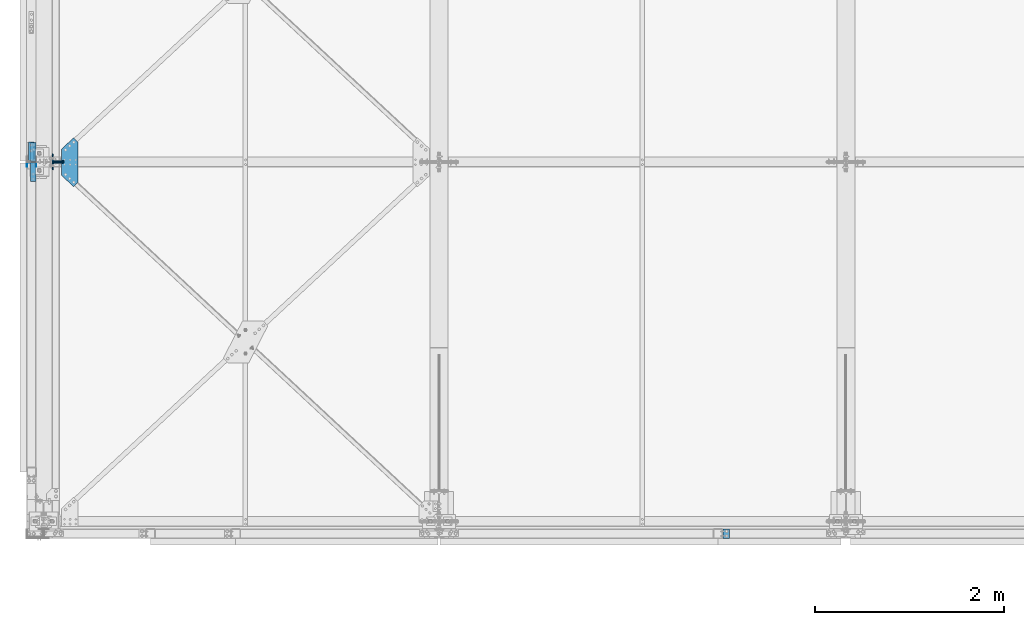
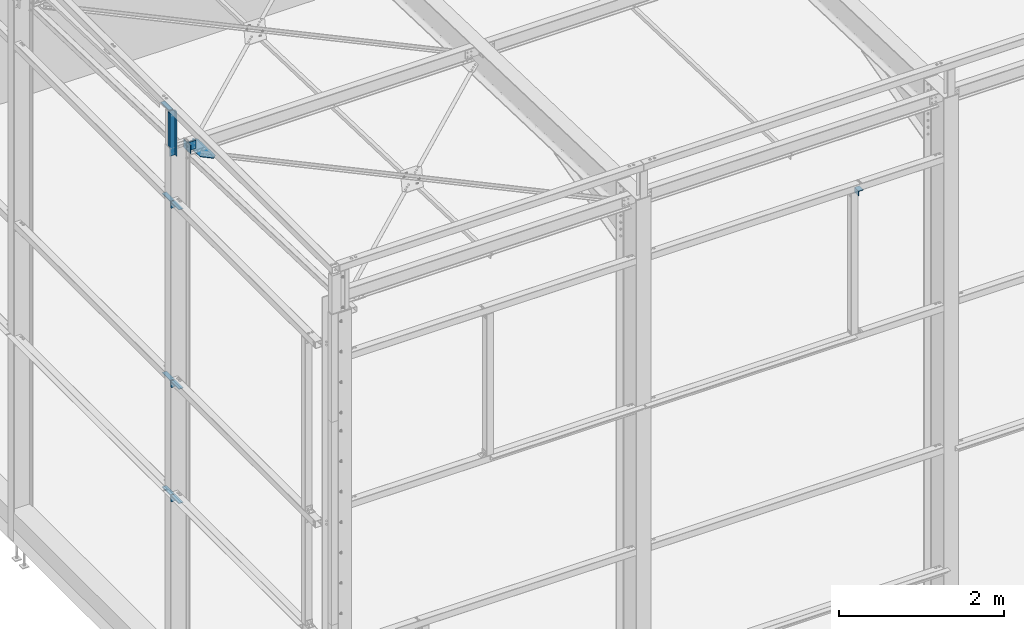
# One storey, part 64 of 362: 10 beams, 2 members, 12 elements without a shape of their own.
"""IFC2X3 building model written with IfcOpenShell, lengths in millimetres."""

from ifc_helpers import new_model, si_unit, frame, origin_with_axes, origin_2d_with_axis, place, context, subcontext, project, spatial, polyline, l_section, u_section, outline, extrude, boolean, material, type_object, element, aggregate, save


model = new_model("IFC2X3")

# Units and contexts
model_context = context("Model", 3, precision=1e-05, world=origin_with_axes())
body_context = subcontext(model_context, "Body", "Model", "MODEL_VIEW")
ifc_project = project(units=[si_unit("LENGTHUNIT", "METRE", prefix="MILLI"), si_unit("AREAUNIT", "SQUARE_METRE"), si_unit("VOLUMEUNIT", "CUBIC_METRE"), si_unit("MASSUNIT", "GRAM", prefix="KILO"), si_unit("TIMEUNIT", "SECOND"), si_unit("PLANEANGLEUNIT", "RADIAN"), si_unit("SOLIDANGLEUNIT", "STERADIAN"), si_unit("THERMODYNAMICTEMPERATUREUNIT", "DEGREE_CELSIUS"), si_unit("LUMINOUSINTENSITYUNIT", "LUMEN")], contexts=[model_context])

# Site, building, storey
site_placement = place(None, origin_with_axes())
site = spatial("IfcSite", under=ifc_project, at=site_placement, Name="Undefined", CompositionType="ELEMENT")
building_placement = place(site_placement, origin_with_axes())
building = spatial("IfcBuilding", under=site, at=building_placement, Name="Undefined", CompositionType="ELEMENT")
storey_placement = place(building_placement, origin_with_axes())
storey = spatial("IfcBuildingStorey", under=building, at=storey_placement, Name="Undefined", CompositionType="ELEMENT", Elevation=0.0)

# Assembly, beam
assembly_1_placement = place(storey_placement, origin_with_axes())
assembly_1 = element("IfcElementAssembly", 1, at=assembly_1_placement, inside=storey, AssemblyPlace="NOTDEFINED", PredefinedType="NOTDEFINED")
ifc_material = material(Name="Undefined/S235-E24")
beam_type_1 = type_object("IfcBeamType", Name="UPF-100*50*4", PredefinedType="NOTDEFINED")
beam_1_placement = place(assembly_1_placement, frame((-130.000001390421, 3771.7000000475, 8444.99776675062), z_axis=(1.0, 0.0, 0.0), x_axis=(0.0, 0.0, -1.0)))
beam_1 = element("IfcBeam", 2, at=beam_1_placement, type_object=beam_type_1, material=ifc_material, Name="BAIONNETTE", ObjectType="UPF-100*50*4", context=body_context, shape_type="CSG", body=[
    boolean("DIFFERENCE", extrude(u_section(Depth=100.0, FlangeWidth=50.0, WebThickness=4.0, FlangeThickness=4.0, at=origin_2d_with_axis()), frame((669.998684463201, 0.0, 0.0), z_axis=(-1.0, 0.0, 0.0), x_axis=(0.0, -1.0, 0.0)), (0.0, 0.0, 1.0), 670.0), extrude(outline(polyline([(0.0, 0.0), (19.9999999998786, -3.63797880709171e-12), (19.9999939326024, 170.0), (-6.06739681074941e-06, 170.0), (0.0, 0.0)])), frame((499.998600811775, -27.5000000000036, -50.0000000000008), z_axis=(0.0, 1.0, 0.0), x_axis=(0.0, 0.0, 1.0)), (0.0, 0.0, 1.0), 55.0)),
])
aggregate(assembly_1, [beam_1])

assembly_2_placement = place(storey_placement, origin_with_axes())
assembly_2 = element("IfcElementAssembly", 3, at=assembly_2_placement, inside=storey, AssemblyPlace="NOTDEFINED", PredefinedType="NOTDEFINED")
beam_type_2 = type_object("IfcBeamType", Name="L70*7", PredefinedType="NOTDEFINED")
beam_2_placement = place(assembly_2_placement, frame((7215.00258321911, -80.0000086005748, 7065.0), z_axis=(0.0, 0.0, -1.0), x_axis=(0.0, -1.0, 0.0)))
beam_2 = element("IfcBeam", 4, at=beam_2_placement, type_object=beam_type_2, material=ifc_material, Name="ATTACHE", ObjectType="L70*7", context=body_context, shape_type="SweptSolid", body=[
    extrude(l_section(Depth=70.0, Width=70.0, Thickness=7.0, FilletRadius=9.0, EdgeRadius=4.5, at=origin_2d_with_axis()), frame((99.9999999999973, -1.63709046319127e-11, 7.73070496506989e-12), z_axis=(-1.0, 0.0, 0.0), x_axis=(0.0, -1.0, 0.0)), (0.0, 0.0, 1.0), 100.0),
])
aggregate(assembly_2, [beam_2])

assembly_3_placement = place(storey_placement, origin_with_axes())
assembly_3 = element("IfcElementAssembly", 5, at=assembly_3_placement, inside=storey, AssemblyPlace="NOTDEFINED", PredefinedType="NOTDEFINED")
beam_type_3 = type_object("IfcBeamType", Name="TOLE6*175", PredefinedType="NOTDEFINED")
beam_3_placement = place(assembly_3_placement, frame((190.000000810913, 3937.44549905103, 7723.16566508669), z_axis=(-1.05403257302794e-09, -0.0314112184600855, -0.999506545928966), x_axis=(0.732435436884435, 0.680500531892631, -0.0213859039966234)))
beam_3 = element("IfcBeam", 6, at=beam_3_placement, type_object=beam_type_3, material=ifc_material, Name="GOUSSET", ObjectType="TOLE6*175", context=body_context, shape_type="SweptSolid", body=[
    extrude(outline(polyline([(0.0, 0.0), (173.394775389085, 6.18456397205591e-11), (173.394851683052, 70.0000076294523), (-109.185874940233, 373.996124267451), (-178.999526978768, 379.100585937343), (-191.643585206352, 206.167785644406), (0.0, 0.0)])), frame((0.0, 0.0, -3.0), z_axis=(0.0, 0.0, 1.0), x_axis=(1.0, 0.0, 0.0)), (0.0, 0.0, 1.0), 6.0),
])
aggregate(assembly_3, [beam_3])

assembly_4_placement = place(storey_placement, origin_with_axes())
assembly_4 = element("IfcElementAssembly", 7, at=assembly_4_placement, inside=storey, AssemblyPlace="NOTDEFINED", PredefinedType="NOTDEFINED")
beam_type_4 = type_object("IfcBeamType", Name="L200*100*10", PredefinedType="NOTDEFINED")
beam_4_placement = place(assembly_4_placement, frame((-99.9999997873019, 3908.0, 8400.0), z_axis=(0.0, 1.0, 0.0), x_axis=(-1.0, 0.0, 0.0)))
beam_4 = element("IfcBeam", 8, at=beam_4_placement, type_object=beam_type_4, material=ifc_material, Name="ATTACHE", ObjectType="L200*100*10", context=body_context, shape_type="SweptSolid", body=[
    extrude(l_section(Depth=200.0, Width=100.0, Thickness=10.0, FilletRadius=15.0, EdgeRadius=7.5, at=origin_2d_with_axis()), frame((60.0, 0.0, 0.0), z_axis=(-1.0, 0.0, 0.0), x_axis=(0.0, -1.0, 0.0)), (0.0, 0.0, 1.0), 60.0),
])
aggregate(assembly_4, [beam_4])

assembly_5_placement = place(storey_placement, origin_with_axes())
assembly_5 = element("IfcElementAssembly", 9, at=assembly_5_placement, inside=storey, AssemblyPlace="NOTDEFINED", PredefinedType="NOTDEFINED")
beam_5_placement = place(assembly_5_placement, frame((-80.000006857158, 3905.00000064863, 2709.9999839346), z_axis=(0.0, 1.0, 0.0), x_axis=(-1.0, 0.0, 0.0)))
beam_5 = element("IfcBeam", 10, at=beam_5_placement, type_object=beam_type_4, material=ifc_material, Name="ATTACHE", ObjectType="L200*100*10", context=body_context, shape_type="SweptSolid", body=[
    extrude(l_section(Depth=200.0, Width=100.0, Thickness=10.0, FilletRadius=15.0, EdgeRadius=7.5, at=origin_2d_with_axis()), frame((60.0, 0.0, 0.0), z_axis=(-1.0, 0.0, 0.0), x_axis=(0.0, -1.0, 0.0)), (0.0, 0.0, 1.0), 60.0),
])
aggregate(assembly_5, [beam_5])

assembly_6_placement = place(storey_placement, origin_with_axes())
assembly_6 = element("IfcElementAssembly", 11, at=assembly_6_placement, inside=storey, AssemblyPlace="NOTDEFINED", PredefinedType="NOTDEFINED")
beam_6_placement = place(assembly_6_placement, frame((-140.000006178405, 3695.00000045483, 2709.9999839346), z_axis=(0.0, -1.0, 0.0), x_axis=(1.0, 0.0, 0.0)))
beam_6 = element("IfcBeam", 12, at=beam_6_placement, type_object=beam_type_4, material=ifc_material, Name="ATTACHE", ObjectType="L200*100*10", context=body_context, shape_type="SweptSolid", body=[
    extrude(l_section(Depth=200.0, Width=100.0, Thickness=10.0, FilletRadius=15.0, EdgeRadius=7.5, at=origin_2d_with_axis()), frame((60.0, 0.0, 0.0), z_axis=(-1.0, 0.0, 0.0), x_axis=(0.0, -1.0, 0.0)), (0.0, 0.0, 1.0), 60.0),
])
aggregate(assembly_6, [beam_6])

assembly_7_placement = place(storey_placement, origin_with_axes())
assembly_7 = element("IfcElementAssembly", 13, at=assembly_7_placement, inside=storey, AssemblyPlace="NOTDEFINED", PredefinedType="NOTDEFINED")
beam_7_placement = place(assembly_7_placement, frame((-80.000006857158, 3905.00000064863, 4399.99998404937), z_axis=(0.0, 1.0, 0.0), x_axis=(-1.0, 0.0, 0.0)))
beam_7 = element("IfcBeam", 14, at=beam_7_placement, type_object=beam_type_4, material=ifc_material, Name="ATTACHE", ObjectType="L200*100*10", context=body_context, shape_type="SweptSolid", body=[
    extrude(l_section(Depth=200.0, Width=100.0, Thickness=10.0, FilletRadius=15.0, EdgeRadius=7.5, at=origin_2d_with_axis()), frame((60.0, 0.0, 0.0), z_axis=(-1.0, 0.0, 0.0), x_axis=(0.0, -1.0, 0.0)), (0.0, 0.0, 1.0), 60.0),
])
aggregate(assembly_7, [beam_7])

assembly_8_placement = place(storey_placement, origin_with_axes())
assembly_8 = element("IfcElementAssembly", 15, at=assembly_8_placement, inside=storey, AssemblyPlace="NOTDEFINED", PredefinedType="NOTDEFINED")
beam_8_placement = place(assembly_8_placement, frame((-140.000006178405, 3695.00000045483, 4399.99998404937), z_axis=(0.0, -1.0, 0.0), x_axis=(1.0, 0.0, 0.0)))
beam_8 = element("IfcBeam", 16, at=beam_8_placement, type_object=beam_type_4, material=ifc_material, Name="ATTACHE", ObjectType="L200*100*10", context=body_context, shape_type="SweptSolid", body=[
    extrude(l_section(Depth=200.0, Width=100.0, Thickness=10.0, FilletRadius=15.0, EdgeRadius=7.5, at=origin_2d_with_axis()), frame((60.0, 0.0, 0.0), z_axis=(-1.0, 0.0, 0.0), x_axis=(0.0, -1.0, 0.0)), (0.0, 0.0, 1.0), 60.0),
])
aggregate(assembly_8, [beam_8])

assembly_9_placement = place(storey_placement, origin_with_axes())
assembly_9 = element("IfcElementAssembly", 17, at=assembly_9_placement, inside=storey, AssemblyPlace="NOTDEFINED", PredefinedType="NOTDEFINED")
beam_9_placement = place(assembly_9_placement, frame((-80.000006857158, 3905.00000064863, 7050.0), z_axis=(0.0, 1.0, 0.0), x_axis=(-1.0, 0.0, 0.0)))
beam_9 = element("IfcBeam", 18, at=beam_9_placement, type_object=beam_type_4, material=ifc_material, Name="ATTACHE", ObjectType="L200*100*10", context=body_context, shape_type="SweptSolid", body=[
    extrude(l_section(Depth=200.0, Width=100.0, Thickness=10.0, FilletRadius=15.0, EdgeRadius=7.5, at=origin_2d_with_axis()), frame((60.0, 0.0, 0.0), z_axis=(-1.0, 0.0, 0.0), x_axis=(0.0, -1.0, 0.0)), (0.0, 0.0, 1.0), 60.0),
])
aggregate(assembly_9, [beam_9])

assembly_10_placement = place(storey_placement, origin_with_axes())
assembly_10 = element("IfcElementAssembly", 19, at=assembly_10_placement, inside=storey, AssemblyPlace="NOTDEFINED", PredefinedType="NOTDEFINED")
beam_10_placement = place(assembly_10_placement, frame((-140.000006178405, 3695.00000045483, 7050.0), z_axis=(0.0, -1.0, 0.0), x_axis=(1.0, 0.0, 0.0)))
beam_10 = element("IfcBeam", 20, at=beam_10_placement, type_object=beam_type_4, material=ifc_material, Name="ATTACHE", ObjectType="L200*100*10", context=body_context, shape_type="SweptSolid", body=[
    extrude(l_section(Depth=200.0, Width=100.0, Thickness=10.0, FilletRadius=15.0, EdgeRadius=7.5, at=origin_2d_with_axis()), frame((60.0, 0.0, 0.0), z_axis=(-1.0, 0.0, 0.0), x_axis=(0.0, -1.0, 0.0)), (0.0, 0.0, 1.0), 60.0),
])
aggregate(assembly_10, [beam_10])

# Assembly, member
assembly_11_placement = place(storey_placement, origin_with_axes())
assembly_11 = element("IfcElementAssembly", 21, at=assembly_11_placement, inside=storey, AssemblyPlace="NOTDEFINED", PredefinedType="NOTDEFINED")
member_type = type_object("IfcMemberType", Name="L120*80*10", PredefinedType="NOTDEFINED")
member_1_placement = place(assembly_11_placement, frame((149.999999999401, 3841.10053255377, 7769.20949531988), z_axis=(1.0, 0.0, 0.0), x_axis=(7.58071938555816e-11, 0.0314107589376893, 0.999506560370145)))
member_1 = element("IfcMember", 22, at=member_1_placement, type_object=member_type, material=ifc_material, Name="ATTACHE", ObjectType="L120*80*10", context=body_context, shape_type="SweptSolid", body=[
    extrude(l_section(Depth=120.0, Width=80.0, Thickness=10.0, FilletRadius=11.0, EdgeRadius=5.5, at=origin_2d_with_axis()), frame((120.0, 0.0, 0.0), z_axis=(-1.0, 0.0, 0.0), x_axis=(0.0, -1.0, 0.0)), (0.0, 0.0, 1.0), 120.0),
])
aggregate(assembly_11, [member_1])

assembly_12_placement = place(storey_placement, origin_with_axes())
assembly_12 = element("IfcElementAssembly", 23, at=assembly_12_placement, inside=storey, AssemblyPlace="NOTDEFINED", PredefinedType="NOTDEFINED")
member_2_placement = place(assembly_12_placement, frame((149.999999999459, 3758.91145390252, 7891.85167266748), z_axis=(1.0, 0.0, 0.0), x_axis=(-1.05403257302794e-09, -0.0314112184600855, -0.999506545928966)))
member_2 = element("IfcMember", 24, at=member_2_placement, type_object=member_type, material=ifc_material, Name="ATTACHE", ObjectType="L120*80*10", context=body_context, shape_type="SweptSolid", body=[
    extrude(l_section(Depth=120.0, Width=80.0, Thickness=10.0, FilletRadius=11.0, EdgeRadius=5.5, at=origin_2d_with_axis()), frame((120.0, 0.0, 0.0), z_axis=(-1.0, 0.0, 0.0), x_axis=(0.0, -1.0, 0.0)), (0.0, 0.0, 1.0), 120.0),
])
aggregate(assembly_12, [member_2])

save(model, "model.ifc")
